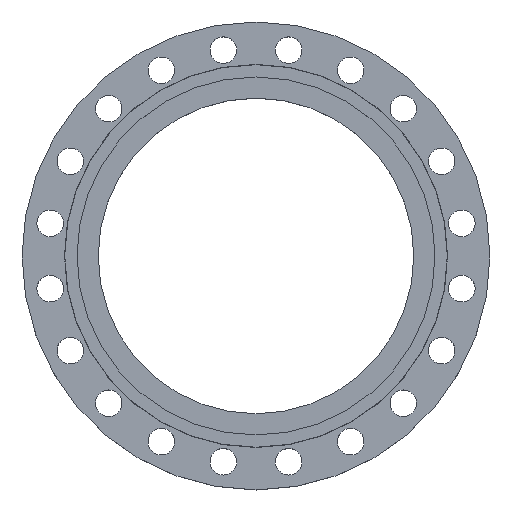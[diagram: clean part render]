
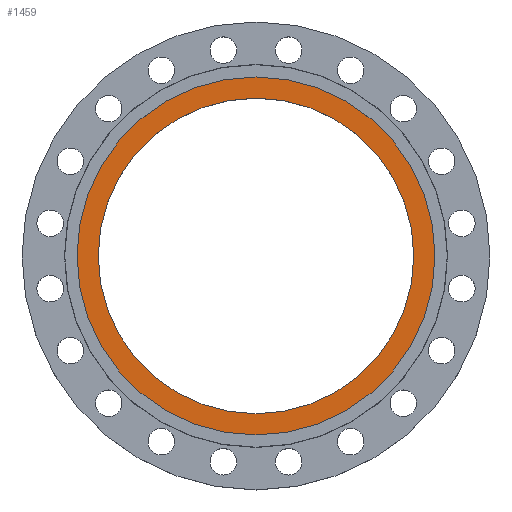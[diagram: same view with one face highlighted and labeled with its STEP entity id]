
A CAD part, top view. The second image highlights one B-rep face of the part: STEP entity #1459.
In plain terms, the highlighted planar face has unit normal (0, 0, 1).
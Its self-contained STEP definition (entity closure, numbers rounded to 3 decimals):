
#5 = EDGE_LOOP ( 'NONE', ( #694, #255 ) ) ;
#17 = DIRECTION ( 'NONE',  ( 1., 0., 0. ) ) ;
#80 = ORIENTED_EDGE ( 'NONE', *, *, #1023, .F. ) ;
#83 = AXIS2_PLACEMENT_3D ( 'NONE', #1630, #270, #851 ) ;
#127 = EDGE_LOOP ( 'NONE', ( #916, #80 ) ) ;
#138 = CARTESIAN_POINT ( 'NONE',  ( 262., 0., -5. ) ) ;
#192 = VERTEX_POINT ( 'NONE', #1563 ) ;
#203 = AXIS2_PLACEMENT_3D ( 'NONE', #1268, #1809, #487 ) ;
#205 = CIRCLE ( 'NONE', #203, 231. ) ;
#241 = DIRECTION ( 'NONE',  ( -1., 0., 0. ) ) ;
#255 = ORIENTED_EDGE ( 'NONE', *, *, #1230, .T. ) ;
#270 = DIRECTION ( 'NONE',  ( 0., 0., 1. ) ) ;
#281 = VERTEX_POINT ( 'NONE', #1467 ) ;
#302 = AXIS2_PLACEMENT_3D ( 'NONE', #631, #1258, #1801 ) ;
#307 = CIRCLE ( 'NONE', #302, 262. ) ;
#408 = FACE_OUTER_BOUND ( 'NONE', #127, .T. ) ;
#487 = DIRECTION ( 'NONE',  ( 1., 0., 0. ) ) ;
#590 = CIRCLE ( 'NONE', #1698, 262. ) ;
#606 = CARTESIAN_POINT ( 'NONE',  ( -262., 0., -5. ) ) ;
#631 = CARTESIAN_POINT ( 'NONE',  ( 0., 0., -5. ) ) ;
#694 = ORIENTED_EDGE ( 'NONE', *, *, #1048, .T. ) ;
#729 = CARTESIAN_POINT ( 'NONE',  ( 0., 0., -5. ) ) ;
#812 = VERTEX_POINT ( 'NONE', #138 ) ;
#851 = DIRECTION ( 'NONE',  ( 1., 0., 0. ) ) ;
#916 = ORIENTED_EDGE ( 'NONE', *, *, #1394, .F. ) ;
#960 = CARTESIAN_POINT ( 'NONE',  ( 0., 0., -5. ) ) ;
#992 = PLANE ( 'NONE',  #83 ) ;
#1023 = EDGE_CURVE ( 'NONE', #812, #1653, #307, .T. ) ;
#1048 = EDGE_CURVE ( 'NONE', #192, #281, #205, .T. ) ;
#1230 = EDGE_CURVE ( 'NONE', #281, #192, #1346, .T. ) ;
#1258 = DIRECTION ( 'NONE',  ( 0., 0., -1. ) ) ;
#1268 = CARTESIAN_POINT ( 'NONE',  ( 0., 0., -5. ) ) ;
#1346 = CIRCLE ( 'NONE', #1348, 231. ) ;
#1348 = AXIS2_PLACEMENT_3D ( 'NONE', #729, #1367, #17 ) ;
#1367 = DIRECTION ( 'NONE',  ( 0., 0., -1. ) ) ;
#1394 = EDGE_CURVE ( 'NONE', #1653, #812, #590, .T. ) ;
#1459 = ADVANCED_FACE ( 'NONE', ( #1742, #408 ), #992, .T. ) ;
#1467 = CARTESIAN_POINT ( 'NONE',  ( 231., 0., -5. ) ) ;
#1563 = CARTESIAN_POINT ( 'NONE',  ( -231., 0., -5. ) ) ;
#1607 = DIRECTION ( 'NONE',  ( 0., 0., -1. ) ) ;
#1630 = CARTESIAN_POINT ( 'NONE',  ( 262., 0., -5. ) ) ;
#1653 = VERTEX_POINT ( 'NONE', #606 ) ;
#1698 = AXIS2_PLACEMENT_3D ( 'NONE', #960, #1607, #241 ) ;
#1742 = FACE_BOUND ( 'NONE', #5, .T. ) ;
#1801 = DIRECTION ( 'NONE',  ( -1., 0., 0. ) ) ;
#1809 = DIRECTION ( 'NONE',  ( 0., 0., -1. ) ) ;
